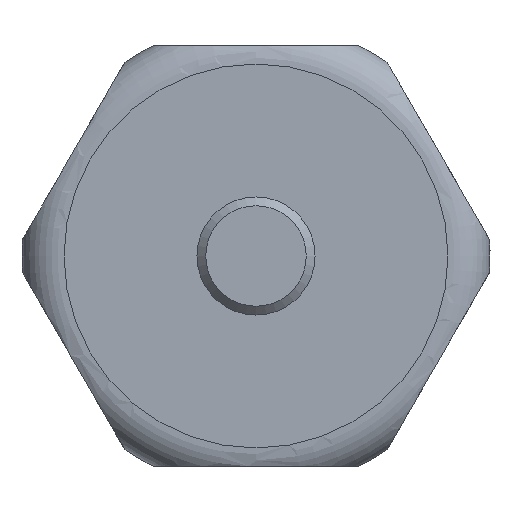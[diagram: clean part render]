
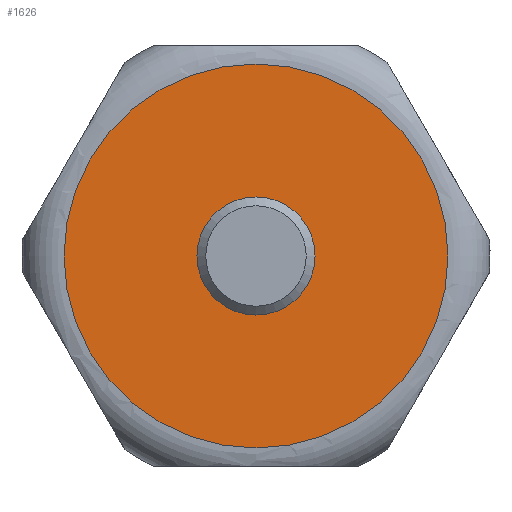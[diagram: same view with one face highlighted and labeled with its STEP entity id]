
A CAD part, left-side view. The second image highlights one B-rep face of the part: STEP entity #1626.
In plain terms, the highlighted planar face has unit normal (-1, 0, 0).
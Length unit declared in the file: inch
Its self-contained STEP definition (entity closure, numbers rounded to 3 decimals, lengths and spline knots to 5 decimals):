
#252=FACE_BOUND('',#388,.T.);
#293=FACE_OUTER_BOUND('',#387,.T.);
#387=EDGE_LOOP('',(#1171,#1172));
#388=EDGE_LOOP('',(#1173,#1174));
#479=CIRCLE('',#1750,0.14764);
#480=CIRCLE('',#1751,0.14764);
#506=CIRCLE('',#1795,0.51181);
#507=CIRCLE('',#1796,0.51181);
#619=VERTEX_POINT('',#2520);
#620=VERTEX_POINT('',#2521);
#659=VERTEX_POINT('',#2781);
#660=VERTEX_POINT('',#2782);
#795=EDGE_CURVE('',#619,#620,#479,.T.);
#796=EDGE_CURVE('',#620,#619,#480,.T.);
#852=EDGE_CURVE('',#659,#660,#506,.T.);
#853=EDGE_CURVE('',#660,#659,#507,.T.);
#1171=ORIENTED_EDGE('',*,*,#852,.F.);
#1172=ORIENTED_EDGE('',*,*,#853,.F.);
#1173=ORIENTED_EDGE('',*,*,#795,.T.);
#1174=ORIENTED_EDGE('',*,*,#796,.T.);
#1488=PLANE('',#1794);
#1626=ADVANCED_FACE('',(#293,#252),#1488,.T.);
#1750=AXIS2_PLACEMENT_3D('',#2522,#2025,#2026);
#1751=AXIS2_PLACEMENT_3D('',#2523,#2027,#2028);
#1794=AXIS2_PLACEMENT_3D('',#2780,#2129,#2130);
#1795=AXIS2_PLACEMENT_3D('',#2783,#2131,#2132);
#1796=AXIS2_PLACEMENT_3D('',#2784,#2133,#2134);
#2025=DIRECTION('center_axis',(1.,0.,0.));
#2026=DIRECTION('ref_axis',(0.,-0.866,0.5));
#2027=DIRECTION('center_axis',(1.,0.,0.));
#2028=DIRECTION('ref_axis',(0.,-0.866,0.5));
#2129=DIRECTION('center_axis',(-1.,0.,0.));
#2130=DIRECTION('ref_axis',(0.,-0.866,0.5));
#2131=DIRECTION('center_axis',(1.,0.,0.));
#2132=DIRECTION('ref_axis',(0.,0.866,-0.5));
#2133=DIRECTION('center_axis',(1.,0.,0.));
#2134=DIRECTION('ref_axis',(0.,0.866,-0.5));
#2520=CARTESIAN_POINT('',(-2.66747,-0.02656,-0.27052));
#2521=CARTESIAN_POINT('',(-2.66747,0.22916,-0.41816));
#2522=CARTESIAN_POINT('Origin',(-2.66747,0.1013,-0.34434));
#2523=CARTESIAN_POINT('Origin',(-2.66747,0.1013,-0.34434));
#2780=CARTESIAN_POINT('Origin',(-2.66747,0.54454,-0.60025));
#2781=CARTESIAN_POINT('',(-2.66747,0.54454,-0.60025));
#2782=CARTESIAN_POINT('',(-2.66747,-0.34194,-0.08844));
#2783=CARTESIAN_POINT('Origin',(-2.66747,0.1013,-0.34434));
#2784=CARTESIAN_POINT('Origin',(-2.66747,0.1013,-0.34434));
